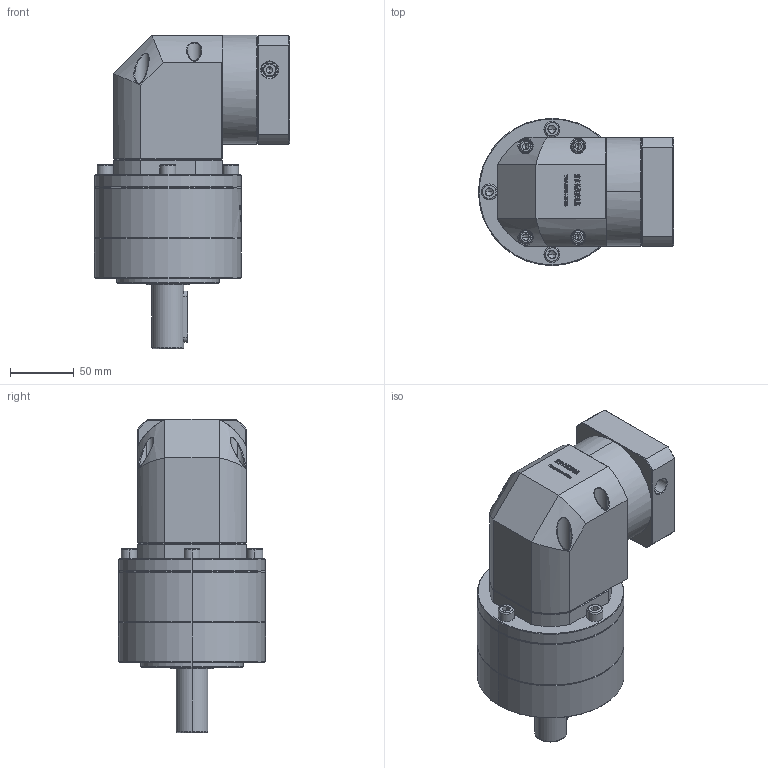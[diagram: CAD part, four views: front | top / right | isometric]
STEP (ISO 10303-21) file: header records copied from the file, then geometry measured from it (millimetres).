
FILE_DESCRIPTION (( 'STEP AP214' ), '1' );
FILE_NAME ('ZER120A-D25-L2-14-60-75-M5.step', '2023-03-14T10:36:20', ( '' ), ( '' ), 'SwSTEP 2.0', 'SolidWorks 2016', '' );
FILE_SCHEMA (( 'AUTOMOTIVE_DESIGN' ));
Length unit declared in the file: millimetre
Products named in the file (1): ZER120A-D25-L2-14-60-75-M5
Bounding box: 152.6 x 115 x 245 mm (x, y, z)
Volume: 1801298 mm3; surface area: 164568.5 mm2
Topology: 6 solids, 6 shells, 3094 faces, 8235 edges, 5285 vertices
Faces by surface type: plane 1576, bspline 637, cylinder 550, cone 317, torus 14
Entity records: 175206 total; most frequent: CARTESIAN_POINT 71048, ORIENTED_EDGE 16362, DIRECTION 11818, EDGE_CURVE 8181, VERTEX_POINT 5285, LINE 5030, VECTOR 5030, AXIS2_PLACEMENT_3D 3394
